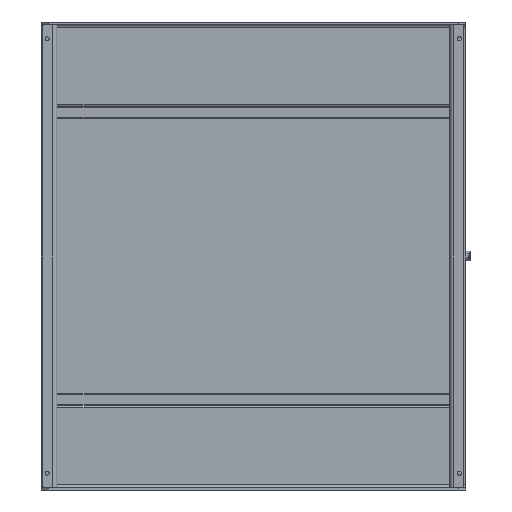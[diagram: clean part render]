
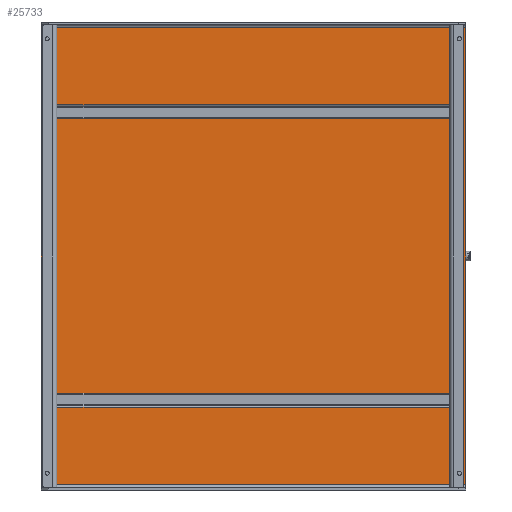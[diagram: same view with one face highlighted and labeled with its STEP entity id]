
A CAD part, front view. The second image highlights one B-rep face of the part: STEP entity #25733.
In plain terms, the highlighted planar face has unit normal (0, -1, 0).
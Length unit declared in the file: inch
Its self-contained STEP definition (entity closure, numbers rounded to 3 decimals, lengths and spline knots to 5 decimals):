
#668 = EDGE_LOOP ( 'NONE', ( #95315, #30153, #55719, #44996 ) ) ;
#1055 = FACE_OUTER_BOUND ( 'NONE', #668, .T. ) ;
#4674 = DIRECTION ( 'NONE',  ( 1., 0., 0. ) ) ;
#10875 = EDGE_CURVE ( 'NONE', #72627, #47306, #36894, .T. ) ;
#14219 = CARTESIAN_POINT ( 'NONE',  ( 14.40828, -3.42689, -38.89489 ) ) ;
#15660 = LINE ( 'NONE', #72692, #89268 ) ;
#17344 = VECTOR ( 'NONE', #43828, 39.37008 ) ;
#17445 = VECTOR ( 'NONE', #4674, 39.37008 ) ;
#21287 = DIRECTION ( 'NONE',  ( 0., 0., 1. ) ) ;
#23223 = VERTEX_POINT ( 'NONE', #92113 ) ;
#25733 = ADVANCED_FACE ( 'NONE', ( #1055 ), #77203, .T. ) ;
#26132 = DIRECTION ( 'NONE',  ( 0., 0., -1. ) ) ;
#30153 = ORIENTED_EDGE ( 'NONE', *, *, #10875, .F. ) ;
#32919 = CARTESIAN_POINT ( 'NONE',  ( 14.40828, -3.42689, 26.38631 ) ) ;
#33226 = CARTESIAN_POINT ( 'NONE',  ( -45.59172, -3.42689, -39.73869 ) ) ;
#35957 = VERTEX_POINT ( 'NONE', #74670 ) ;
#36894 = LINE ( 'NONE', #14219, #17344 ) ;
#36984 = LINE ( 'NONE', #48784, #17445 ) ;
#40307 = DIRECTION ( 'NONE',  ( 0., 0., -1. ) ) ;
#43776 = LINE ( 'NONE', #32919, #58627 ) ;
#43828 = DIRECTION ( 'NONE',  ( -1., 0., 0. ) ) ;
#44996 = ORIENTED_EDGE ( 'NONE', *, *, #73113, .F. ) ;
#45504 = CARTESIAN_POINT ( 'NONE',  ( -45.59172, -3.42689, -38.89489 ) ) ;
#47306 = VERTEX_POINT ( 'NONE', #45504 ) ;
#48784 = CARTESIAN_POINT ( 'NONE',  ( -45.59172, -3.42689, 25.54251 ) ) ;
#55719 = ORIENTED_EDGE ( 'NONE', *, *, #88491, .F. ) ;
#58627 = VECTOR ( 'NONE', #40307, 39.37008 ) ;
#59767 = EDGE_CURVE ( 'NONE', #47306, #23223, #15660, .T. ) ;
#67083 = AXIS2_PLACEMENT_3D ( 'NONE', #33226, #70144, #26132 ) ;
#70144 = DIRECTION ( 'NONE',  ( 0., -1., 0. ) ) ;
#72627 = VERTEX_POINT ( 'NONE', #92650 ) ;
#72692 = CARTESIAN_POINT ( 'NONE',  ( -45.59172, -3.42689, 26.38631 ) ) ;
#73113 = EDGE_CURVE ( 'NONE', #23223, #35957, #36984, .T. ) ;
#74670 = CARTESIAN_POINT ( 'NONE',  ( 14.40828, -3.42689, 25.54251 ) ) ;
#77203 = PLANE ( 'NONE',  #67083 ) ;
#88491 = EDGE_CURVE ( 'NONE', #35957, #72627, #43776, .T. ) ;
#89268 = VECTOR ( 'NONE', #21287, 39.37008 ) ;
#92113 = CARTESIAN_POINT ( 'NONE',  ( -45.59172, -3.42689, 25.54251 ) ) ;
#92650 = CARTESIAN_POINT ( 'NONE',  ( 14.40828, -3.42689, -38.89489 ) ) ;
#95315 = ORIENTED_EDGE ( 'NONE', *, *, #59767, .F. ) ;
